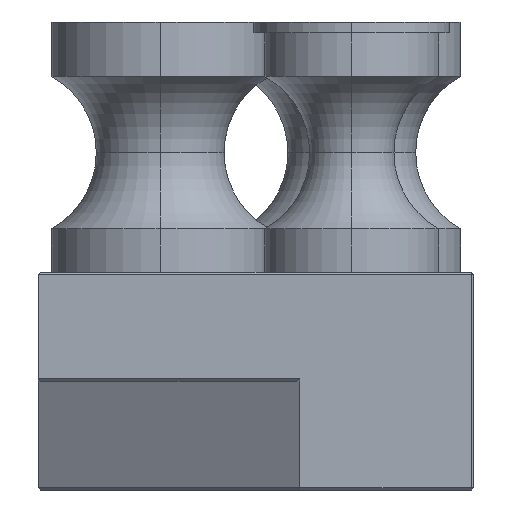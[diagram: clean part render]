
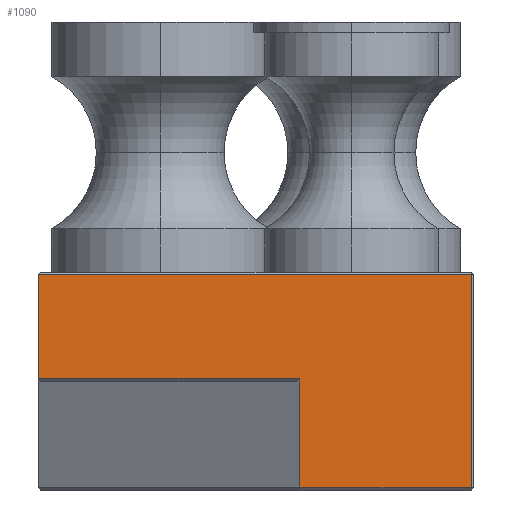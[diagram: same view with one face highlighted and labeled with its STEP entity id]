
A CAD part, left-side view. The second image highlights one B-rep face of the part: STEP entity #1090.
In plain terms, the highlighted planar face has unit normal (-1, 0, 0).
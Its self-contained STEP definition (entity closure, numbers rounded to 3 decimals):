
#31 = ORIENTED_EDGE ( 'NONE', *, *, #3116, .T. ) ;
#263 = LINE ( 'NONE', #930, #492 ) ;
#282 = VERTEX_POINT ( 'NONE', #1130 ) ;
#363 = EDGE_CURVE ( 'NONE', #1759, #2241, #263, .T. ) ;
#392 = DIRECTION ( 'NONE',  ( 0., 1., 0. ) ) ;
#419 = VECTOR ( 'NONE', #1577, 1000. ) ;
#422 = CARTESIAN_POINT ( 'NONE',  ( -43.5, 10., 4.9 ) ) ;
#492 = VECTOR ( 'NONE', #2676, 1000. ) ;
#564 = PLANE ( 'NONE',  #3028 ) ;
#565 = CARTESIAN_POINT ( 'NONE',  ( -43.5, -9.9, 4.9 ) ) ;
#583 = CARTESIAN_POINT ( 'NONE',  ( -43.5, -2., 0.1 ) ) ;
#607 = DIRECTION ( 'NONE',  ( 0., 1., 0. ) ) ;
#660 = LINE ( 'NONE', #422, #2701 ) ;
#661 = CARTESIAN_POINT ( 'NONE',  ( -43.5, 10., 5. ) ) ;
#747 = LINE ( 'NONE', #583, #999 ) ;
#871 = EDGE_LOOP ( 'NONE', ( #2521, #31, #3004, #1246, #1087, #3076 ) ) ;
#907 = EDGE_CURVE ( 'NONE', #2241, #1881, #660, .T. ) ;
#912 = DIRECTION ( 'NONE',  ( 0., 0., -1. ) ) ;
#930 = CARTESIAN_POINT ( 'NONE',  ( -43.5, -9.9, 5. ) ) ;
#999 = VECTOR ( 'NONE', #1190, 1000. ) ;
#1087 = ORIENTED_EDGE ( 'NONE', *, *, #363, .T. ) ;
#1090 = ADVANCED_FACE ( 'NONE', ( #1274 ), #564, .F. ) ;
#1130 = CARTESIAN_POINT ( 'NONE',  ( -43.5, -2., -4.9 ) ) ;
#1190 = DIRECTION ( 'NONE',  ( 0., -1., 0. ) ) ;
#1246 = ORIENTED_EDGE ( 'NONE', *, *, #3154, .T. ) ;
#1274 = FACE_OUTER_BOUND ( 'NONE', #871, .T. ) ;
#1311 = EDGE_CURVE ( 'NONE', #1881, #2943, #1384, .T. ) ;
#1329 = CARTESIAN_POINT ( 'NONE',  ( -43.5, 10., 5. ) ) ;
#1384 = LINE ( 'NONE', #661, #2712 ) ;
#1480 = CARTESIAN_POINT ( 'NONE',  ( -43.5, 10., 4.9 ) ) ;
#1577 = DIRECTION ( 'NONE',  ( 0., -1., 0. ) ) ;
#1620 = VECTOR ( 'NONE', #1889, 1000. ) ;
#1697 = CARTESIAN_POINT ( 'NONE',  ( -43.5, 10., 0.1 ) ) ;
#1759 = VERTEX_POINT ( 'NONE', #2895 ) ;
#1779 = EDGE_CURVE ( 'NONE', #2641, #282, #2604, .T. ) ;
#1818 = CARTESIAN_POINT ( 'NONE',  ( -43.5, -10., -4.9 ) ) ;
#1881 = VERTEX_POINT ( 'NONE', #1480 ) ;
#1889 = DIRECTION ( 'NONE',  ( 0., 0., -1. ) ) ;
#2241 = VERTEX_POINT ( 'NONE', #565 ) ;
#2521 = ORIENTED_EDGE ( 'NONE', *, *, #1311, .T. ) ;
#2584 = DIRECTION ( 'NONE',  ( 1., 0., 0. ) ) ;
#2604 = LINE ( 'NONE', #3098, #1620 ) ;
#2641 = VERTEX_POINT ( 'NONE', #3055 ) ;
#2676 = DIRECTION ( 'NONE',  ( 0., 0., 1. ) ) ;
#2701 = VECTOR ( 'NONE', #392, 1000. ) ;
#2712 = VECTOR ( 'NONE', #912, 1000. ) ;
#2800 = LINE ( 'NONE', #1818, #419 ) ;
#2895 = CARTESIAN_POINT ( 'NONE',  ( -43.5, -9.9, -4.9 ) ) ;
#2943 = VERTEX_POINT ( 'NONE', #1697 ) ;
#3004 = ORIENTED_EDGE ( 'NONE', *, *, #1779, .T. ) ;
#3028 = AXIS2_PLACEMENT_3D ( 'NONE', #1329, #2584, #607 ) ;
#3055 = CARTESIAN_POINT ( 'NONE',  ( -43.5, -2., 0.1 ) ) ;
#3076 = ORIENTED_EDGE ( 'NONE', *, *, #907, .T. ) ;
#3098 = CARTESIAN_POINT ( 'NONE',  ( -43.5, -2., 0. ) ) ;
#3116 = EDGE_CURVE ( 'NONE', #2943, #2641, #747, .T. ) ;
#3154 = EDGE_CURVE ( 'NONE', #282, #1759, #2800, .T. ) ;
